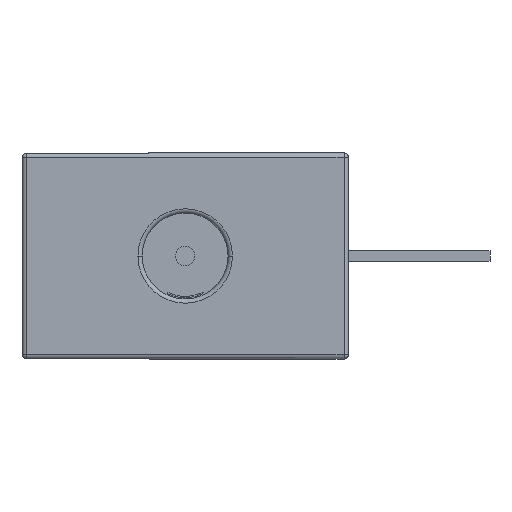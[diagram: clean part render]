
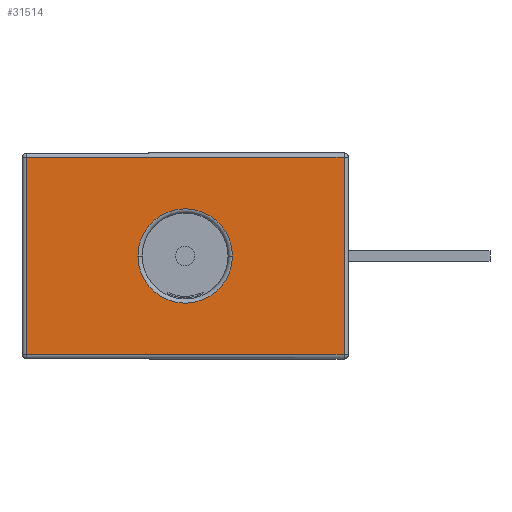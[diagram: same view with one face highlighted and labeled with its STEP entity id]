
A CAD part, left-side view. The second image highlights one B-rep face of the part: STEP entity #31514.
In plain terms, the highlighted planar face has unit normal (-1, 0, 0).
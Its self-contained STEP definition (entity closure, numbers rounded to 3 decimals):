
#11033 = CARTESIAN_POINT ( 'NONE',  ( -6.349, 2.7, 0. ) ) ;
#11439 = CARTESIAN_POINT ( 'NONE',  ( -6.349, 4.9, 0. ) ) ;
#11447 = DIRECTION ( 'NONE',  ( 0., -1., 0. ) ) ;
#11448 = DIRECTION ( 'NONE',  ( 1., 0., 0. ) ) ;
#11449 = CARTESIAN_POINT ( 'NONE',  ( -6.349, 3.8, 0. ) ) ;
#11450 = AXIS2_PLACEMENT_3D ( 'NONE', #11449, #11448, #11447 ) ;
#11451 = CIRCLE ( 'NONE', #11450, 1.1 ) ;
#16721 = CARTESIAN_POINT ( 'NONE',  ( -6.348, 7.5, -2.298 ) ) ;
#16743 = CARTESIAN_POINT ( 'NONE',  ( -6.348, 7.5, 2.298 ) ) ;
#16749 = DIRECTION ( 'NONE',  ( 0., 0., -1. ) ) ;
#16750 = VECTOR ( 'NONE', #16749, 1000. ) ;
#16751 = CARTESIAN_POINT ( 'NONE',  ( -6.348, 7.5, -2.398 ) ) ;
#16752 = LINE ( 'NONE', #16751, #16750 ) ;
#16835 = DIRECTION ( 'NONE',  ( 0., -1., 0. ) ) ;
#16836 = DIRECTION ( 'NONE',  ( -1., 0., 0. ) ) ;
#16837 = CARTESIAN_POINT ( 'NONE',  ( -6.35, 0., 2.4 ) ) ;
#16838 = AXIS2_PLACEMENT_3D ( 'NONE', #16837, #16836, #16835 ) ;
#16840 = PLANE ( 'NONE',  #16838 ) ;
#16841 = FACE_BOUND ( 'NONE', #31559, .T. ) ;
#16842 = FACE_OUTER_BOUND ( 'NONE', #31511, .T. ) ;
#16976 = DIRECTION ( 'NONE',  ( 0., 1., 0. ) ) ;
#16977 = VECTOR ( 'NONE', #16976, 1000. ) ;
#16978 = CARTESIAN_POINT ( 'NONE',  ( -6.35, 0., 2.3 ) ) ;
#16979 = LINE ( 'NONE', #16978, #16977 ) ;
#16986 = DIRECTION ( 'NONE',  ( 0., -1., 0. ) ) ;
#16987 = DIRECTION ( 'NONE',  ( 1., 0., 0. ) ) ;
#16988 = CARTESIAN_POINT ( 'NONE',  ( -6.349, 3.8, 0. ) ) ;
#16989 = AXIS2_PLACEMENT_3D ( 'NONE', #16988, #16987, #16986 ) ;
#16991 = CIRCLE ( 'NONE', #16989, 1.1 ) ;
#17008 = CARTESIAN_POINT ( 'NONE',  ( -6.35, 0.1, 2.3 ) ) ;
#17733 = CARTESIAN_POINT ( 'NONE',  ( -6.35, 0.1, -2.3 ) ) ;
#18069 = DIRECTION ( 'NONE',  ( 0., 0., 1. ) ) ;
#18071 = VECTOR ( 'NONE', #18069, 1000. ) ;
#18072 = CARTESIAN_POINT ( 'NONE',  ( -6.35, 0.1, 2.4 ) ) ;
#18073 = LINE ( 'NONE', #18072, #18071 ) ;
#18255 = DIRECTION ( 'NONE',  ( 0., -1., 0. ) ) ;
#18256 = VECTOR ( 'NONE', #18255, 1000. ) ;
#18257 = CARTESIAN_POINT ( 'NONE',  ( -6.35, 0.001, -2.3 ) ) ;
#18258 = LINE ( 'NONE', #18257, #18256 ) ;
#22457 = VERTEX_POINT ( 'NONE', #11033 ) ;
#22484 = VERTEX_POINT ( 'NONE', #11439 ) ;
#22501 = EDGE_CURVE ( 'NONE', #22484, #22457, #11451, .T. ) ;
#31427 = VERTEX_POINT ( 'NONE', #16721 ) ;
#31436 = EDGE_CURVE ( 'NONE', #31441, #31427, #16752, .T. ) ;
#31441 = VERTEX_POINT ( 'NONE', #16743 ) ;
#31446 = ORIENTED_EDGE ( 'NONE', *, *, #31436, .T. ) ;
#31511 = EDGE_LOOP ( 'NONE', ( #31446, #32006, #31922, #31580 ) ) ;
#31514 = ADVANCED_FACE ( 'NONE', ( #16842, #16841 ), #16840, .T. ) ;
#31559 = EDGE_LOOP ( 'NONE', ( #31568, #31564 ) ) ;
#31564 = ORIENTED_EDGE ( 'NONE', *, *, #22501, .T. ) ;
#31566 = EDGE_CURVE ( 'NONE', #22457, #22484, #16991, .T. ) ;
#31568 = ORIENTED_EDGE ( 'NONE', *, *, #31566, .T. ) ;
#31574 = EDGE_CURVE ( 'NONE', #31579, #31441, #16979, .T. ) ;
#31579 = VERTEX_POINT ( 'NONE', #17008 ) ;
#31580 = ORIENTED_EDGE ( 'NONE', *, *, #31574, .T. ) ;
#31855 = VERTEX_POINT ( 'NONE', #17733 ) ;
#31921 = EDGE_CURVE ( 'NONE', #31855, #31579, #18073, .T. ) ;
#31922 = ORIENTED_EDGE ( 'NONE', *, *, #31921, .T. ) ;
#32003 = EDGE_CURVE ( 'NONE', #31427, #31855, #18258, .T. ) ;
#32006 = ORIENTED_EDGE ( 'NONE', *, *, #32003, .T. ) ;
